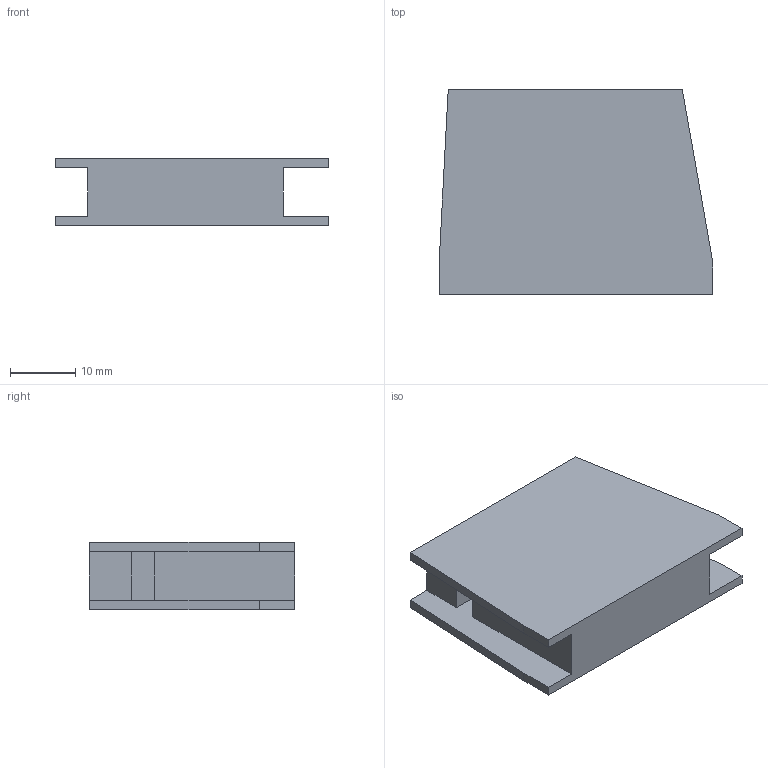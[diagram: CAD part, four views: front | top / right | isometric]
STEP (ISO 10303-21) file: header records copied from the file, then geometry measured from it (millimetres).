
FILE_DESCRIPTION (( 'STEP AP203' ), '1' );
FILE_NAME ('HA10.STEP', '2010-10-13T03:54:41', ( 'Gutermuth' ), ( 'Benedict GmbH' ), 'SwSTEP 2.0', 'SolidWorks 2010', '' );
FILE_SCHEMA (( 'CONFIG_CONTROL_DESIGN' ));
Length unit declared in the file: millimetre
Products named in the file (1): HA10
Bounding box: 42 x 31.5 x 10.4 mm (x, y, z)
Volume: 10017.5 mm3; surface area: 4967.8 mm2
Topology: 1 solids, 1 shells, 32 faces, 84 edges, 56 vertices
Faces by surface type: plane 28, cylinder 4
Entity records: 1053 total; most frequent: CARTESIAN_POINT 173, ORIENTED_EDGE 168, DIRECTION 158, EDGE_CURVE 84, VECTOR 76, LINE 76, VERTEX_POINT 56, AXIS2_PLACEMENT_3D 41
